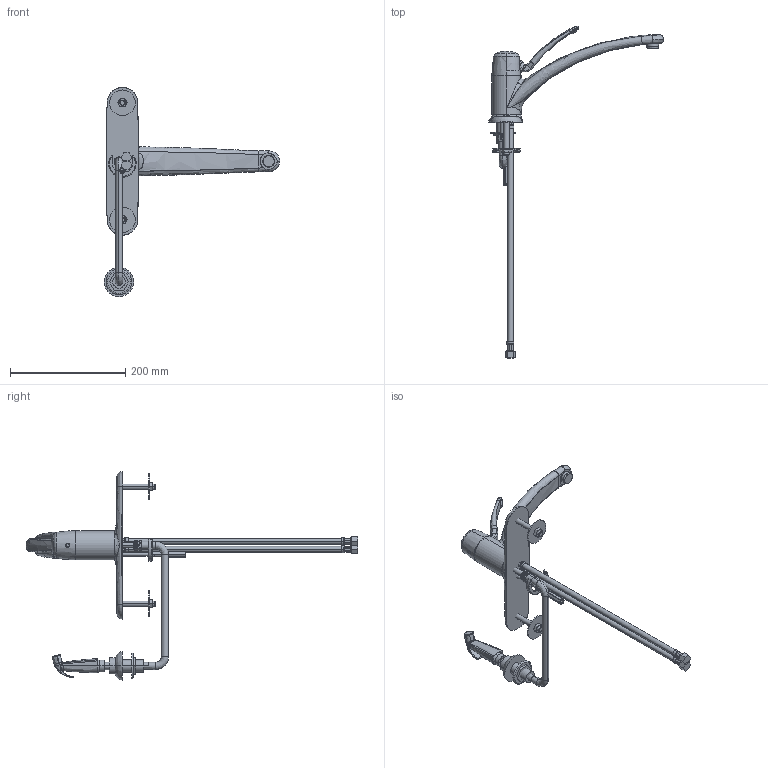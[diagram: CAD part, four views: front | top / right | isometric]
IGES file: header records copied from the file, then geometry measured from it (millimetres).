
Start section:  PTC IGES file: 2301-8cp_sw0001.igs
Global section: file name: 2301-8cp_sw0001.igs; native system: Creo Parametric by Parametric Technology Corporation; preprocessor: 2013050; author: jrodriguez; organization: Unknown; date: 20131004.082333; units: inch
Bounding box: 304.44 x 576.53 x 363.22 mm (x, y, z)
Surface area: 176259.1 mm2 (no closed solid volume)
Topology: 0 solids, 0 shells, 491 faces, 3803 edges, 5149 vertices
Faces by surface type: bspline 297, revolution 189, extrusion 5
